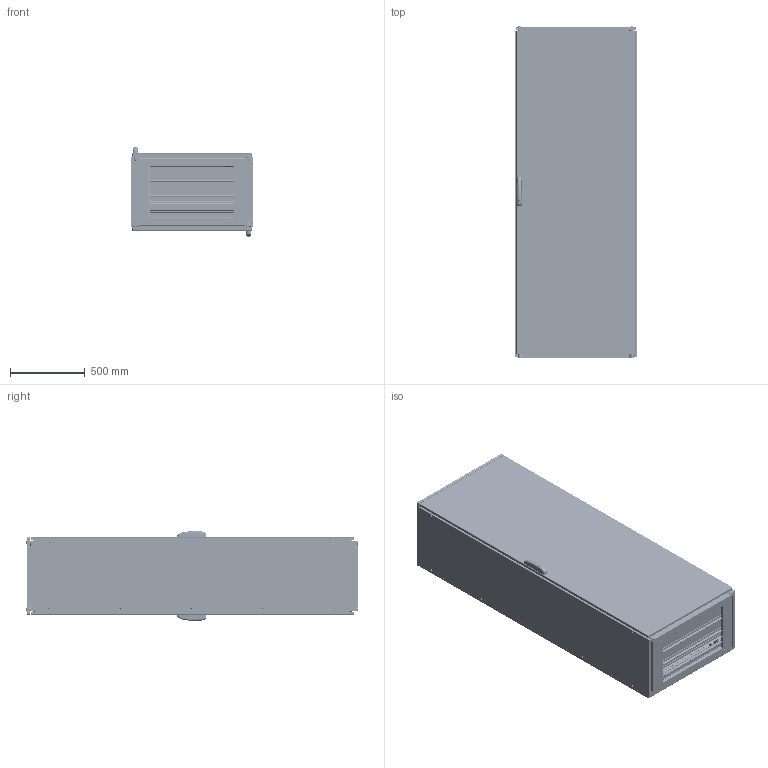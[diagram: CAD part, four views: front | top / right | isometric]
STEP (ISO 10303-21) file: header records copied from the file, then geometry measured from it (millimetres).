
FILE_DESCRIPTION (( 'STEP AP203' ), '1' );
FILE_NAME ('ENUX082205DP.STEP', '2025-05-29T12:01:16', ( '' ), ( '' ), 'SwSTEP 2.0', 'SolidWorks 2022', '' );
FILE_SCHEMA (( 'CONFIG_CONTROL_DESIGN' ));
Length unit declared in the file: millimetre
Products named in the file (13): AR_ENUX_nuova_maniglia_mesan; AR_ENUX_Tegolino_0800x0050; ENUX082205DP; AR_ENUX_Fianco_0500x2200_DX; AR_ENUX_Fianco_0500x2200_SX; AR_ENUX_Porta_singola_2.0_0800x2200_ANT; AR_ENUX_Tetto_0800x0500; AR_ENUX_montaggio_porta_singlola_2.0_0800x2200_POST_DX; AR_ENUX_Porta_singola_2.0_0800x2200_POST; AR_ENUX_Vite_tetto; AR_ENUX_Struttura_0800x2200x0500; AR_ENUX_Tegolino_0800x0100; AR_ENUX_montaggio_porta_singlola_2.0_0800x2200_ANT_DX
Assembly tree (18 placements, depth 3):
  ENUX082205DP
    AR_ENUX_Struttura_0800x2200x0500
    AR_ENUX_montaggio_porta_singlola_2.0_0800x2200_ANT_DX
      AR_ENUX_Porta_singola_2.0_0800x2200_ANT
      AR_ENUX_nuova_maniglia_mesan
    AR_ENUX_montaggio_porta_singlola_2.0_0800x2200_POST_DX
      AR_ENUX_Porta_singola_2.0_0800x2200_POST
      AR_ENUX_nuova_maniglia_mesan
    AR_ENUX_Fianco_0500x2200_SX
    AR_ENUX_Fianco_0500x2200_DX
    AR_ENUX_Tetto_0800x0500
    AR_ENUX_Vite_tetto  x4
    AR_ENUX_Tegolino_0800x0100  x2
    AR_ENUX_Tegolino_0800x0050  x2
Bounding box: 812 x 2215.1 x 600 mm (x, y, z)
Volume: 16261556.8 mm3; surface area: 20237555.4 mm2
Topology: 16 solids, 16 shells, 9981 faces, 28492 edges, 18452 vertices
Faces by surface type: plane 5261, cylinder 3865, bspline 390, torus 237, cone 164, sphere 64
Entity records: 366033 total; most frequent: CARTESIAN_POINT 97053, ORIENTED_EDGE 55670, DIRECTION 53558, EDGE_CURVE 27835, VECTOR 18886, LINE 18886, VERTEX_POINT 18160, AXIS2_PLACEMENT_3D 17336
